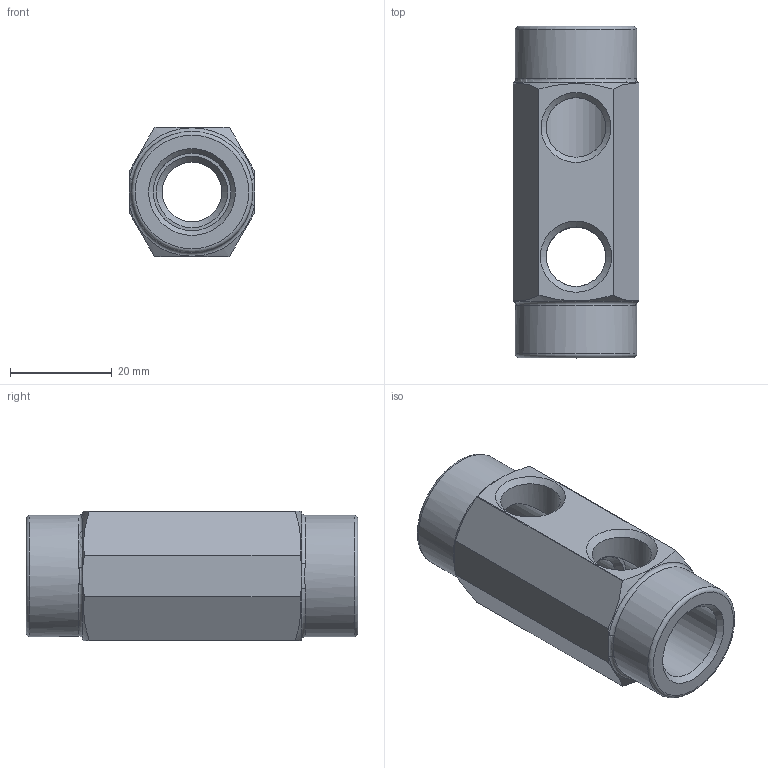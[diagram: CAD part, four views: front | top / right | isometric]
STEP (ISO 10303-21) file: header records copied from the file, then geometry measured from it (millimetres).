
FILE_DESCRIPTION(/* description */ (''),/* implementation_level */ '2;1');
FILE_NAME(/* name */ 'C:/Users/drich/Desktop/381H-4-RL v1.step',/* time_stamp */ '2020-01-10T21:54:39-06:00',/* author */ (''),/* organization */ (''),/* preprocessor_version */ 'ST-DEVELOPER v18',/* originating_system */ 'Autodesk Translation Framework v8.12.0.6',/* authorisation */ '');
FILE_SCHEMA (('AUTOMOTIVE_DESIGN { 1 0 10303 214 3 1 1 }'));
Length unit declared in the file: inch
Products named in the file (2): 381H-4-RL; 381H-4-RL_1
Assembly tree (1 placements, depth 2):
  381H-4-RL
    381H-4-RL_1
Bounding box: 24.64 x 65.07 x 25.4 mm (x, y, z)
Volume: 20095.6 mm3; surface area: 8874.3 mm2
Topology: 1 solids, 1 shells, 52 faces, 136 edges, 86 vertices
Faces by surface type: cylinder 12, bspline 12, cone 11, plane 11, torus 6
Full cylindrical faces by diameter (mm): 11.668 x4, 15.173 x2, 23.8 x2
Entity records: 2010 total; most frequent: CARTESIAN_POINT 727, ORIENTED_EDGE 272, DIRECTION 250, EDGE_CURVE 136, AXIS2_PLACEMENT_3D 109, VERTEX_POINT 86, CIRCLE 66, EDGE_LOOP 60
